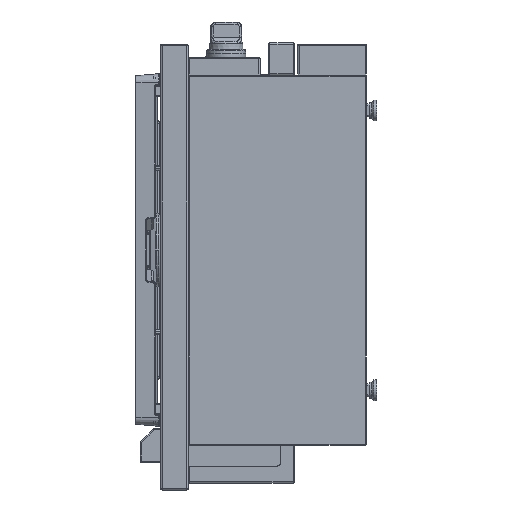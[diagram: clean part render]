
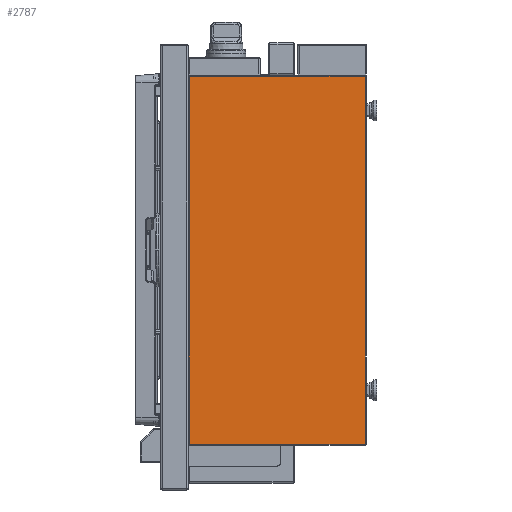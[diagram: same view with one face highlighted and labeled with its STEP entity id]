
A CAD part, left-side view. The second image highlights one B-rep face of the part: STEP entity #2787.
In plain terms, the highlighted planar face has unit normal (-1, 0, 0).
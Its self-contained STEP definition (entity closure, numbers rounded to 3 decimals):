
#588=DIRECTION('',(0.,0.,-1.));
#589=VECTOR('',#588,536.4);
#590=CARTESIAN_POINT('',(-349.,128.2,268.2));
#591=LINE('',#590,#589);
#592=DIRECTION('',(0.,1.,0.));
#593=VECTOR('',#592,256.4);
#594=CARTESIAN_POINT('',(-349.,-128.2,268.2));
#595=LINE('',#594,#593);
#596=DIRECTION('',(0.,0.,1.));
#597=VECTOR('',#596,536.4);
#598=CARTESIAN_POINT('',(-349.,-128.2,-268.2));
#599=LINE('',#598,#597);
#600=DIRECTION('',(0.,-1.,0.));
#601=VECTOR('',#600,256.4);
#602=CARTESIAN_POINT('',(-349.,128.2,-268.2));
#603=LINE('',#602,#601);
#1642=CARTESIAN_POINT('',(-349.,128.2,268.2));
#1643=CARTESIAN_POINT('',(-349.,128.2,-268.2));
#1644=VERTEX_POINT('',#1642);
#1645=VERTEX_POINT('',#1643);
#1646=CARTESIAN_POINT('',(-349.,-128.2,268.2));
#1647=VERTEX_POINT('',#1646);
#1666=CARTESIAN_POINT('',(-349.,-128.2,-268.2));
#1667=VERTEX_POINT('',#1666);
#2773=CARTESIAN_POINT('',(-349.,0.,0.));
#2774=DIRECTION('',(1.,0.,0.));
#2775=DIRECTION('',(0.,0.,-1.));
#2776=AXIS2_PLACEMENT_3D('',#2773,#2774,#2775);
#2777=PLANE('',#2776);
#2779=ORIENTED_EDGE('',*,*,#2778,.F.);
#2781=ORIENTED_EDGE('',*,*,#2780,.F.);
#2783=ORIENTED_EDGE('',*,*,#2782,.F.);
#2784=ORIENTED_EDGE('',*,*,#2766,.F.);
#2785=EDGE_LOOP('',(#2779,#2781,#2783,#2784));
#2786=FACE_OUTER_BOUND('',#2785,.F.);
#2766=EDGE_CURVE('',#1645,#1667,#603,.T.);
#2778=EDGE_CURVE('',#1644,#1645,#591,.T.);
#2780=EDGE_CURVE('',#1647,#1644,#595,.T.);
#2782=EDGE_CURVE('',#1667,#1647,#599,.T.);
#2787=ADVANCED_FACE('',(#2786),#2777,.F.);
